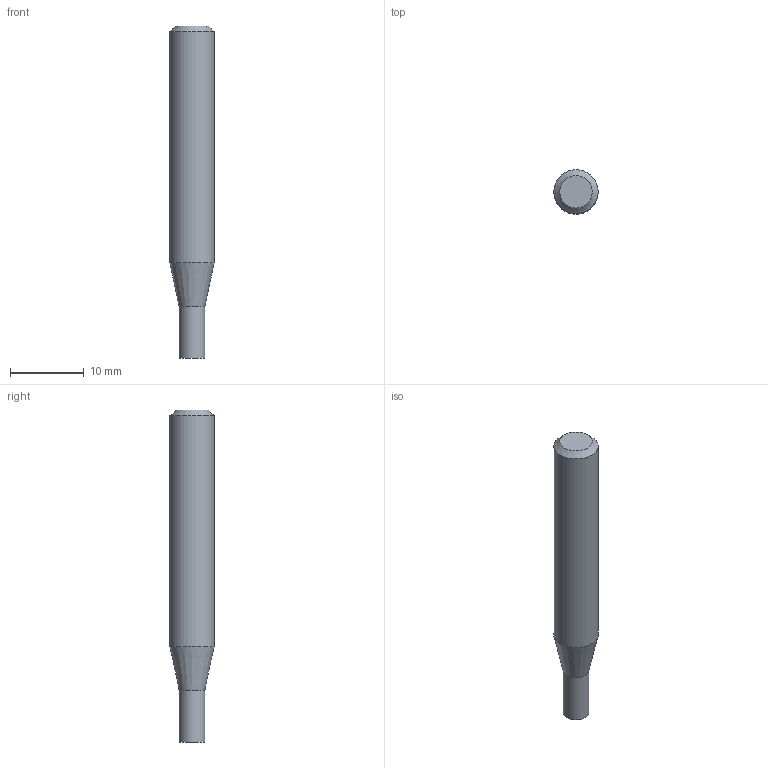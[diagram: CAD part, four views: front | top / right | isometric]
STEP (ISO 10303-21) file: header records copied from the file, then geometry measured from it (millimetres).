
FILE_DESCRIPTION((''),'2;1');
FILE_NAME('C:\Users\nsx150\AppData\Local\Temp\Mastercam 2021\E36A1X9CCL\TEMP.step','2023-04-21T15:12:46',(''),(''),'STEP Write','Mastercam 2021 ... CNC Software, Inc.','');
FILE_SCHEMA(('AUTOMOTIVE_DESIGN'));
Length unit declared in the file: millimetre
Products named in the file (1): None
Bounding box: 6 x 6 x 45 mm (x, y, z)
Volume: 1076.6 mm3; surface area: 819.6 mm2
Topology: 2 solids, 2 shells, 8 faces, 10 edges, 6 vertices
Faces by surface type: plane 4, cylinder 2, cone 2
Full cylindrical faces by diameter (mm): 3.5 x1, 6 x1
Entity records: 190 total; most frequent: DIRECTION 32, CARTESIAN_POINT 22, AXIS2_PLACEMENT_3D 16, ORIENTED_EDGE 12, EDGE_LOOP 12, STYLED_ITEM 11, ADVANCED_FACE 8, VERTEX_POINT 6
